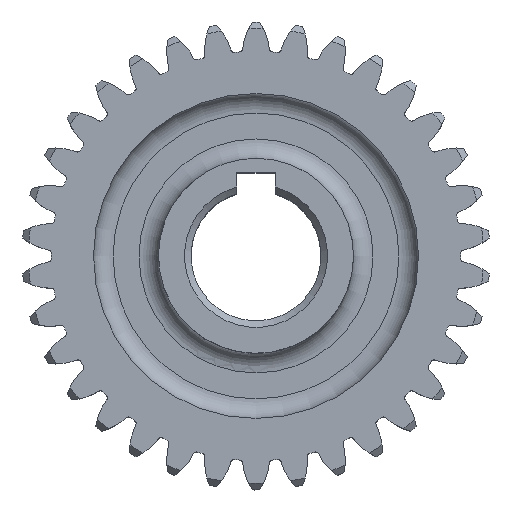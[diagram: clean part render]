
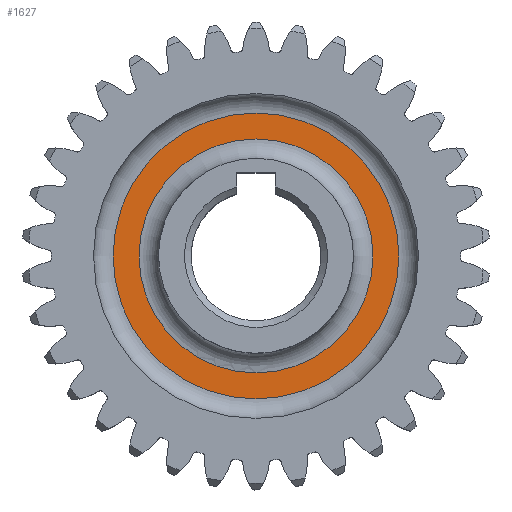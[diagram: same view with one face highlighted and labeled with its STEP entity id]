
A CAD part, top view. The second image highlights one B-rep face of the part: STEP entity #1627.
In plain terms, the highlighted planar face has unit normal (0, 0, 1).
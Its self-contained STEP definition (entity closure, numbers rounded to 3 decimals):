
#1585=CARTESIAN_POINT('',(18.0,0.,6.5));
#1586=VERTEX_POINT('',#1585);
#1587=CARTESIAN_POINT('',(0.0,0.0,6.5));
#1588=DIRECTION('',(0.0,0.0,1.0));
#1589=DIRECTION('',(-1.0,0.0,0.0));
#1590=AXIS2_PLACEMENT_3D('',#1587,#1588,#1589);
#1591=CIRCLE('',#1590,18.0);
#1592=EDGE_CURVE('',#1586,#1586,#1591,.T.);
#1608=CARTESIAN_POINT('',(0.,0.0,6.5));
#1609=DIRECTION('',(0.0,0.0,1.0));
#1610=DIRECTION('',(1.0,0.0,0.0));
#1611=AXIS2_PLACEMENT_3D('',#1608,#1609,#1610);
#1612=PLANE('',#1611);
#1613=CARTESIAN_POINT('',(22.,0.,6.5));
#1614=VERTEX_POINT('',#1613);
#1615=CARTESIAN_POINT('',(0.0,0.0,6.5));
#1616=DIRECTION('',(0.0,0.0,-1.0));
#1617=DIRECTION('',(-1.0,0.0,0.0));
#1618=AXIS2_PLACEMENT_3D('',#1615,#1616,#1617);
#1619=CIRCLE('',#1618,22.);
#1620=EDGE_CURVE('',#1614,#1614,#1619,.T.);
#1621=ORIENTED_EDGE('',*,*,#1620,.F.);
#1622=EDGE_LOOP('',(#1621));
#1623=FACE_OUTER_BOUND('',#1622,.T.);
#1624=ORIENTED_EDGE('',*,*,#1592,.F.);
#1625=EDGE_LOOP('',(#1624));
#1626=FACE_BOUND('',#1625,.T.);
#1627=ADVANCED_FACE('',(#1623,#1626),#1612,.T.);
